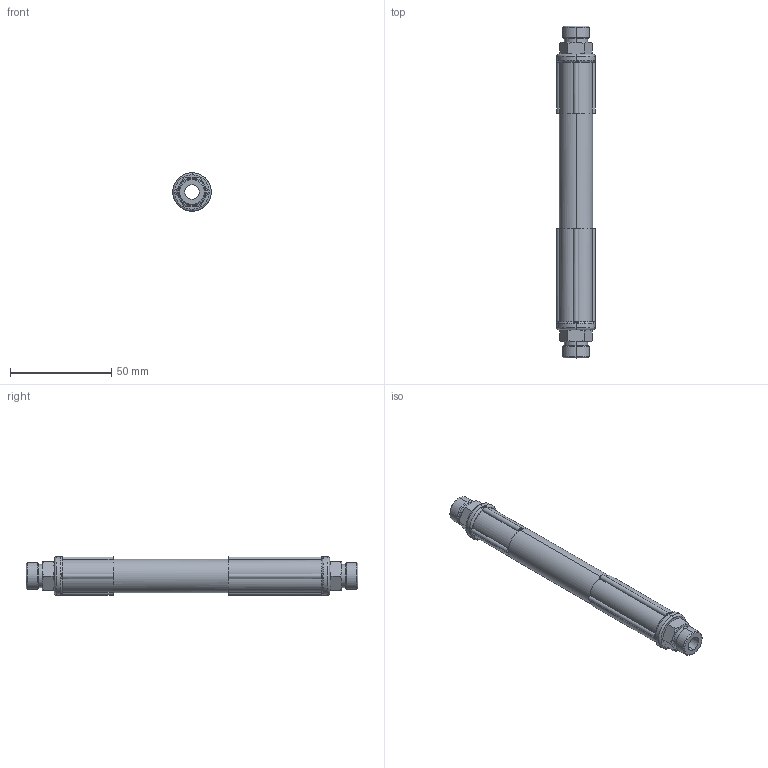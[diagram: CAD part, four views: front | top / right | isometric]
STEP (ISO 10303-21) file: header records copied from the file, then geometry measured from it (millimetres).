
FILE_DESCRIPTION (( 'STEP AP203' ), '1' );
FILE_NAME ('SILVENT_820_STEP.STEP', '2019-11-19T06:58:00', ( '' ), ( '' ), 'SwSTEP 2.0', 'SolidWorks 2016', '' );
FILE_SCHEMA (( 'CONFIG_CONTROL_DESIGN' ));
Length unit declared in the file: millimetre
Products named in the file (2): SILVENT_820_STEP
Bounding box: 19 x 164 x 19 mm (x, y, z)
Volume: 28004.2 mm3; surface area: 13263.6 mm2
Topology: 1 solids, 1 shells, 168 faces, 398 edges, 222 vertices
Faces by surface type: plane 56, cylinder 44, cone 32, bspline 20, torus 16
Entity records: 5873 total; most frequent: CARTESIAN_POINT 1972, DIRECTION 864, ORIENTED_EDGE 764, AXIS2_PLACEMENT_3D 400, EDGE_CURVE 382, CIRCLE 250, VERTEX_POINT 222, EDGE_LOOP 176
